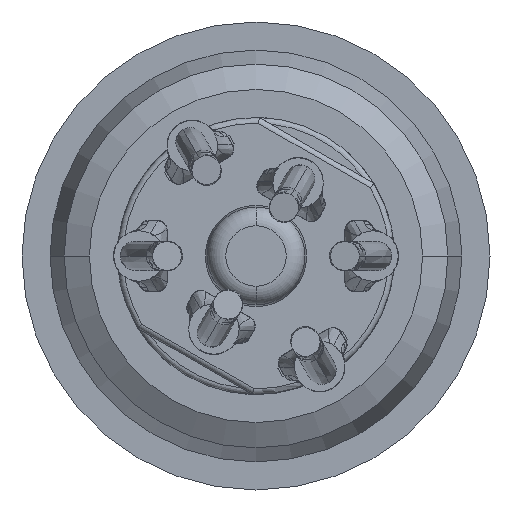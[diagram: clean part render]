
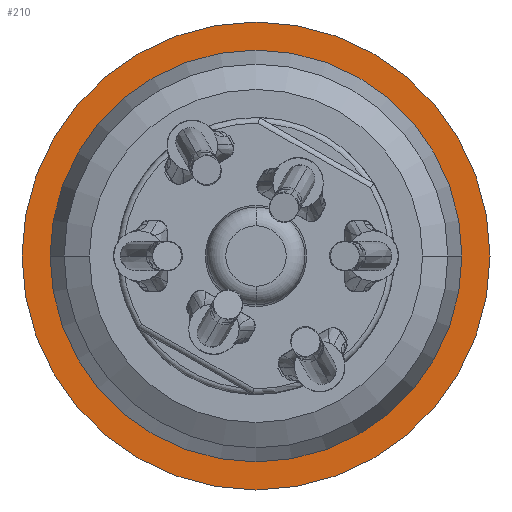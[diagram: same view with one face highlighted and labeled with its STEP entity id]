
A CAD part, front view. The second image highlights one B-rep face of the part: STEP entity #210.
In plain terms, the highlighted planar face has unit normal (0, -1, 0).
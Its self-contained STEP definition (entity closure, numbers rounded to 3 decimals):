
#1=CARTESIAN_POINT('',(0.,0.,0.));
#2=DIRECTION('',(0.,-1.,0.));
#3=DIRECTION('',(-1.,0.,0.));
#4=AXIS2_PLACEMENT_3D('',#1,#2,#3);
#6=CARTESIAN_POINT('',(0.,0.,0.));
#7=DIRECTION('',(0.,1.,0.));
#8=DIRECTION('',(-1.,0.,0.));
#9=AXIS2_PLACEMENT_3D('',#6,#7,#8);
#169=CARTESIAN_POINT('',(-12.5,0.,0.));
#170=VERTEX_POINT('',#169);
#181=CARTESIAN_POINT('',(12.5,0.,0.));
#182=VERTEX_POINT('',#181);
#199=CARTESIAN_POINT('',(0.,0.,0.));
#200=DIRECTION('',(0.,-1.,0.));
#201=DIRECTION('',(-1.,0.,0.));
#202=AXIS2_PLACEMENT_3D('',#199,#200,#201);
#203=PLANE('',#202);
#205=ORIENTED_EDGE('',*,*,#204,.F.);
#207=ORIENTED_EDGE('',*,*,#206,.T.);
#208=EDGE_LOOP('',(#205,#207));
#209=FACE_OUTER_BOUND('',#208,.F.);
#210=ADVANCED_FACE('',(#209),#203,.T.);
#5=CIRCLE('',#4,12.5);
#10=CIRCLE('',#9,12.5);
#204=EDGE_CURVE('',#170,#182,#5,.T.);
#206=EDGE_CURVE('',#170,#182,#10,.T.);
